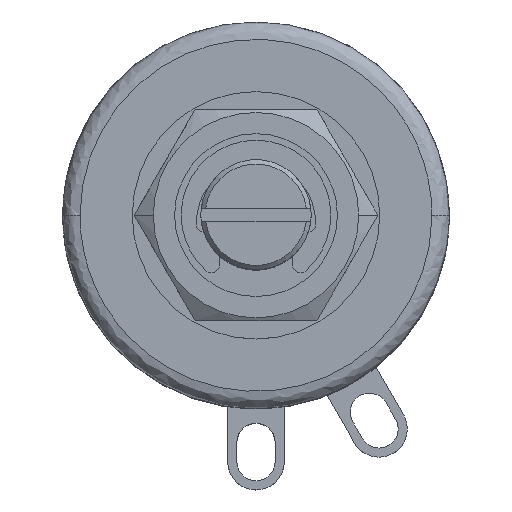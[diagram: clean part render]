
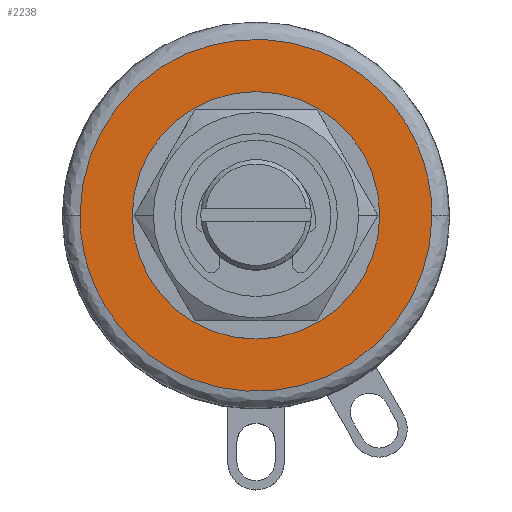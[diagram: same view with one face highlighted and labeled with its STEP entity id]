
A CAD part, top view. The second image highlights one B-rep face of the part: STEP entity #2238.
In plain terms, the highlighted planar face has unit normal (0, 0, 1).
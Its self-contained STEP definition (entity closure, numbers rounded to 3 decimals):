
#2 = EDGE_LOOP ( 'NONE', ( #3723, #3801 ) ) ;
#287 = CARTESIAN_POINT ( 'NONE',  ( 10.11, 0., 2.003 ) ) ;
#705 = CARTESIAN_POINT ( 'NONE',  ( 10.11, 20.22, 2.003 ) ) ;
#724 = CARTESIAN_POINT ( 'NONE',  ( -10.11, -20.22, 2.003 ) ) ;
#963 = VERTEX_POINT ( 'NONE', #287 ) ;
#1753 = DIRECTION ( 'NONE',  ( 0., 0., -1. ) ) ;
#2210 = CARTESIAN_POINT ( 'NONE',  ( 10.11, -20.22, 2.003 ) ) ;
#2238 = ADVANCED_FACE ( 'NONE', ( #2842 ), #3268, .F. ) ;
#2253 = AXIS2_PLACEMENT_3D ( 'NONE', #3983, #1753, #4361 ) ;
#2565 =( BOUNDED_CURVE ( )  B_SPLINE_CURVE ( 3, ( #4045, #2931, #705, #3328 ),
 .UNSPECIFIED., .F., .T. ) 
 B_SPLINE_CURVE_WITH_KNOTS ( ( 4, 4 ),
 ( 0.5, 1. ),
 .UNSPECIFIED. ) 
 CURVE ( )  GEOMETRIC_REPRESENTATION_ITEM ( )  RATIONAL_B_SPLINE_CURVE ( ( 1., 0.333, 0.333, 1. ) ) 
 REPRESENTATION_ITEM ( '' )  );
#2769 = EDGE_CURVE ( 'NONE', #963, #3611, #3508, .T. ) ;
#2842 = FACE_OUTER_BOUND ( 'NONE', #2, .T. ) ;
#2931 = CARTESIAN_POINT ( 'NONE',  ( -10.11, 20.22, 2.003 ) ) ;
#3268 = PLANE ( 'NONE',  #2253 ) ;
#3328 = CARTESIAN_POINT ( 'NONE',  ( 10.11, 0., 2.003 ) ) ;
#3341 = CARTESIAN_POINT ( 'NONE',  ( -10.11, 0., 2.003 ) ) ;
#3379 = CARTESIAN_POINT ( 'NONE',  ( -10.11, 0., 2.003 ) ) ;
#3508 =( BOUNDED_CURVE ( )  B_SPLINE_CURVE ( 3, ( #4054, #2210, #724, #3341 ),
 .UNSPECIFIED., .F., .F. ) 
 B_SPLINE_CURVE_WITH_KNOTS ( ( 4, 4 ),
 ( 0., 0.5 ),
 .UNSPECIFIED. ) 
 CURVE ( )  GEOMETRIC_REPRESENTATION_ITEM ( )  RATIONAL_B_SPLINE_CURVE ( ( 1., 0.333, 0.333, 1. ) ) 
 REPRESENTATION_ITEM ( '' )  );
#3611 = VERTEX_POINT ( 'NONE', #3379 ) ;
#3723 = ORIENTED_EDGE ( 'NONE', *, *, #4298, .F. ) ;
#3801 = ORIENTED_EDGE ( 'NONE', *, *, #2769, .F. ) ;
#3983 = CARTESIAN_POINT ( 'NONE',  ( 0., 0., 2.003 ) ) ;
#4045 = CARTESIAN_POINT ( 'NONE',  ( -10.11, 0., 2.003 ) ) ;
#4054 = CARTESIAN_POINT ( 'NONE',  ( 10.11, 0., 2.003 ) ) ;
#4298 = EDGE_CURVE ( 'NONE', #3611, #963, #2565, .T. ) ;
#4361 = DIRECTION ( 'NONE',  ( -1., 0., 0. ) ) ;
